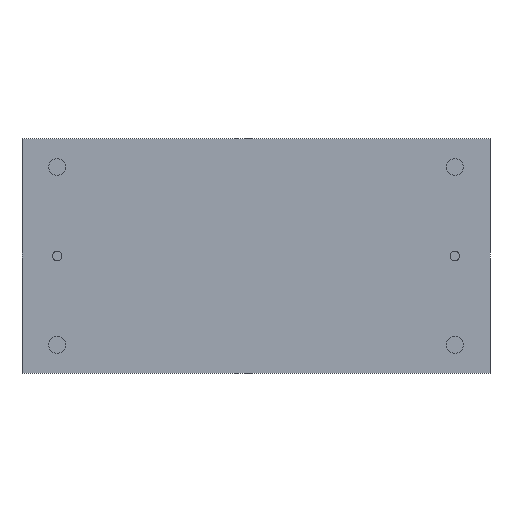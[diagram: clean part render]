
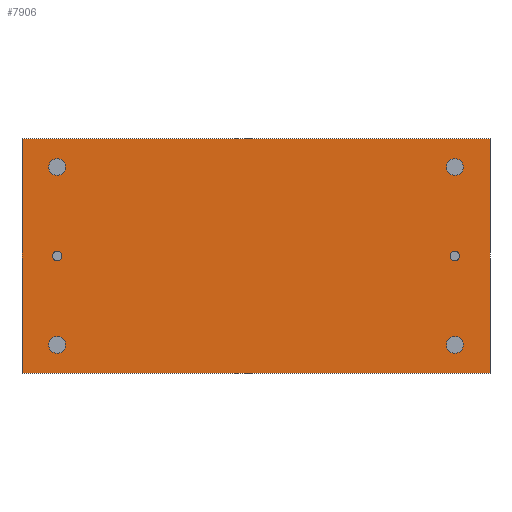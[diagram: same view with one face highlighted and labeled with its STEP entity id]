
A CAD part, front view. The second image highlights one B-rep face of the part: STEP entity #7906.
In plain terms, the highlighted planar face has unit normal (0, -1, 0).
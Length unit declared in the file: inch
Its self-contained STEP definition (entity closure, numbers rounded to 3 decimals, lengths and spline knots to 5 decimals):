
#297 = CARTESIAN_POINT ( 'NONE',  ( 36.7247, 39.78586, 41.41977 ) ) ;
#419 = CARTESIAN_POINT ( 'NONE',  ( 37.2247, 39.78586, 41.16977 ) ) ;
#453 = EDGE_CURVE ( 'NONE', #3236, #3236, #1991, .T. ) ;
#737 = DIRECTION ( 'NONE',  ( 0., 1., 0. ) ) ;
#843 = EDGE_CURVE ( 'NONE', #5869, #5869, #1434, .T. ) ;
#1159 = FACE_OUTER_BOUND ( 'NONE', #5225, .T. ) ;
#1232 = AXIS2_PLACEMENT_3D ( 'NONE', #4304, #737, #5129 ) ;
#1250 = VERTEX_POINT ( 'NONE', #7631 ) ;
#1360 = EDGE_LOOP ( 'NONE', ( #8613 ) ) ;
#1434 = CIRCLE ( 'NONE', #7984, 0.01799 ) ;
#1440 = AXIS2_PLACEMENT_3D ( 'NONE', #1490, #6208, #3689 ) ;
#1490 = CARTESIAN_POINT ( 'NONE',  ( 36.2997, 39.78586, 41.41977 ) ) ;
#1624 = ORIENTED_EDGE ( 'NONE', *, *, #4605, .T. ) ;
#1991 = CIRCLE ( 'NONE', #2552, 0.01799 ) ;
#2173 = EDGE_CURVE ( 'NONE', #8452, #8452, #3671, .T. ) ;
#2247 = VERTEX_POINT ( 'NONE', #3130 ) ;
#2255 = EDGE_LOOP ( 'NONE', ( #10636 ) ) ;
#2534 = LINE ( 'NONE', #6109, #10431 ) ;
#2544 = ORIENTED_EDGE ( 'NONE', *, *, #10713, .T. ) ;
#2552 = AXIS2_PLACEMENT_3D ( 'NONE', #6664, #7479, #6724 ) ;
#2620 = CARTESIAN_POINT ( 'NONE',  ( 37.2247, 39.78586, 41.66977 ) ) ;
#2640 = CARTESIAN_POINT ( 'NONE',  ( 36.2247, 39.78586, 41.16977 ) ) ;
#2812 = FACE_BOUND ( 'NONE', #1360, .T. ) ;
#2895 = CARTESIAN_POINT ( 'NONE',  ( 36.2247, 39.78586, 41.16977 ) ) ;
#2900 = AXIS2_PLACEMENT_3D ( 'NONE', #297, #3745, #8248 ) ;
#2992 = FACE_BOUND ( 'NONE', #3462, .T. ) ;
#3130 = CARTESIAN_POINT ( 'NONE',  ( 37.1497, 39.78586, 41.42977 ) ) ;
#3184 = CARTESIAN_POINT ( 'NONE',  ( 36.2997, 39.78586, 41.62776 ) ) ;
#3236 = VERTEX_POINT ( 'NONE', #8398 ) ;
#3367 = EDGE_CURVE ( 'NONE', #8615, #6495, #9363, .T. ) ;
#3401 = ORIENTED_EDGE ( 'NONE', *, *, #6812, .T. ) ;
#3462 = EDGE_LOOP ( 'NONE', ( #2544 ) ) ;
#3527 = DIRECTION ( 'NONE',  ( 0., 0., 1. ) ) ;
#3671 = CIRCLE ( 'NONE', #1232, 0.01799 ) ;
#3689 = DIRECTION ( 'NONE',  ( 0., 0., 1. ) ) ;
#3745 = DIRECTION ( 'NONE',  ( 0., 1., 0. ) ) ;
#3763 = CARTESIAN_POINT ( 'NONE',  ( 37.1497, 39.78586, 41.60977 ) ) ;
#3788 = ORIENTED_EDGE ( 'NONE', *, *, #6586, .F. ) ;
#3951 = VERTEX_POINT ( 'NONE', #2620 ) ;
#4140 = ORIENTED_EDGE ( 'NONE', *, *, #2173, .T. ) ;
#4304 = CARTESIAN_POINT ( 'NONE',  ( 36.2997, 39.78586, 41.60977 ) ) ;
#4326 = VERTEX_POINT ( 'NONE', #419 ) ;
#4464 = DIRECTION ( 'NONE',  ( -1., 0., 0. ) ) ;
#4605 = EDGE_CURVE ( 'NONE', #1250, #1250, #7370, .T. ) ;
#4685 = FACE_BOUND ( 'NONE', #8191, .T. ) ;
#4755 = DIRECTION ( 'NONE',  ( 0., 0., 1. ) ) ;
#4813 = VECTOR ( 'NONE', #4464, 39.37008 ) ;
#4822 = CIRCLE ( 'NONE', #8935, 0.01 ) ;
#4861 = CARTESIAN_POINT ( 'NONE',  ( 36.2247, 39.78586, 41.66977 ) ) ;
#4885 = VERTEX_POINT ( 'NONE', #6705 ) ;
#5129 = DIRECTION ( 'NONE',  ( 0., 0., 1. ) ) ;
#5225 = EDGE_LOOP ( 'NONE', ( #7271, #6430, #3788, #5489 ) ) ;
#5489 = ORIENTED_EDGE ( 'NONE', *, *, #7944, .F. ) ;
#5869 = VERTEX_POINT ( 'NONE', #10208 ) ;
#5997 = DIRECTION ( 'NONE',  ( 0., 0., 1. ) ) ;
#6109 = CARTESIAN_POINT ( 'NONE',  ( 37.2247, 39.78586, 41.16977 ) ) ;
#6208 = DIRECTION ( 'NONE',  ( 0., 1., 0. ) ) ;
#6430 = ORIENTED_EDGE ( 'NONE', *, *, #6908, .F. ) ;
#6495 = VERTEX_POINT ( 'NONE', #7567 ) ;
#6516 = CARTESIAN_POINT ( 'NONE',  ( 36.2247, 39.78586, 41.16977 ) ) ;
#6586 = EDGE_CURVE ( 'NONE', #3951, #4326, #2534, .T. ) ;
#6664 = CARTESIAN_POINT ( 'NONE',  ( 36.2997, 39.78586, 41.22987 ) ) ;
#6705 = CARTESIAN_POINT ( 'NONE',  ( 36.2997, 39.78586, 41.42977 ) ) ;
#6724 = DIRECTION ( 'NONE',  ( 0., 0., 1. ) ) ;
#6812 = EDGE_CURVE ( 'NONE', #2247, #2247, #4822, .T. ) ;
#6908 = EDGE_CURVE ( 'NONE', #4326, #8615, #11419, .T. ) ;
#6988 = CARTESIAN_POINT ( 'NONE',  ( 37.1497, 39.78586, 41.22987 ) ) ;
#7037 = DIRECTION ( 'NONE',  ( 0., 1., 0. ) ) ;
#7094 = CARTESIAN_POINT ( 'NONE',  ( 37.1497, 39.78586, 41.41977 ) ) ;
#7271 = ORIENTED_EDGE ( 'NONE', *, *, #3367, .F. ) ;
#7370 = CIRCLE ( 'NONE', #10732, 0.01799 ) ;
#7479 = DIRECTION ( 'NONE',  ( 0., 1., 0. ) ) ;
#7567 = CARTESIAN_POINT ( 'NONE',  ( 36.2247, 39.78586, 41.66977 ) ) ;
#7631 = CARTESIAN_POINT ( 'NONE',  ( 37.1497, 39.78586, 41.62776 ) ) ;
#7896 = EDGE_LOOP ( 'NONE', ( #3401 ) ) ;
#7906 = ADVANCED_FACE ( 'NONE', ( #2992, #9129, #2812, #10939, #4685, #9943, #1159 ), #9064, .F. ) ;
#7944 = EDGE_CURVE ( 'NONE', #6495, #3951, #8369, .T. ) ;
#7950 = VECTOR ( 'NONE', #8426, 39.37008 ) ;
#7984 = AXIS2_PLACEMENT_3D ( 'NONE', #6988, #11382, #5997 ) ;
#8191 = EDGE_LOOP ( 'NONE', ( #1624 ) ) ;
#8248 = DIRECTION ( 'NONE',  ( 0., 0., 1. ) ) ;
#8369 = LINE ( 'NONE', #4861, #7950 ) ;
#8398 = CARTESIAN_POINT ( 'NONE',  ( 36.2997, 39.78586, 41.24786 ) ) ;
#8426 = DIRECTION ( 'NONE',  ( 1., 0., 0. ) ) ;
#8452 = VERTEX_POINT ( 'NONE', #3184 ) ;
#8613 = ORIENTED_EDGE ( 'NONE', *, *, #843, .T. ) ;
#8615 = VERTEX_POINT ( 'NONE', #2895 ) ;
#8649 = VECTOR ( 'NONE', #10251, 39.37008 ) ;
#8935 = AXIS2_PLACEMENT_3D ( 'NONE', #7094, #7037, #3527 ) ;
#9064 = PLANE ( 'NONE',  #2900 ) ;
#9129 = FACE_BOUND ( 'NONE', #10480, .T. ) ;
#9363 = LINE ( 'NONE', #6516, #8649 ) ;
#9665 = CIRCLE ( 'NONE', #1440, 0.01 ) ;
#9686 = DIRECTION ( 'NONE',  ( 0., 0., -1. ) ) ;
#9943 = FACE_BOUND ( 'NONE', #2255, .T. ) ;
#10208 = CARTESIAN_POINT ( 'NONE',  ( 37.1497, 39.78586, 41.24786 ) ) ;
#10251 = DIRECTION ( 'NONE',  ( 0., 0., 1. ) ) ;
#10431 = VECTOR ( 'NONE', #9686, 39.37008 ) ;
#10480 = EDGE_LOOP ( 'NONE', ( #4140 ) ) ;
#10636 = ORIENTED_EDGE ( 'NONE', *, *, #453, .T. ) ;
#10713 = EDGE_CURVE ( 'NONE', #4885, #4885, #9665, .T. ) ;
#10732 = AXIS2_PLACEMENT_3D ( 'NONE', #3763, #10962, #4755 ) ;
#10939 = FACE_BOUND ( 'NONE', #7896, .T. ) ;
#10962 = DIRECTION ( 'NONE',  ( 0., 1., 0. ) ) ;
#11382 = DIRECTION ( 'NONE',  ( 0., 1., 0. ) ) ;
#11419 = LINE ( 'NONE', #2640, #4813 ) ;
